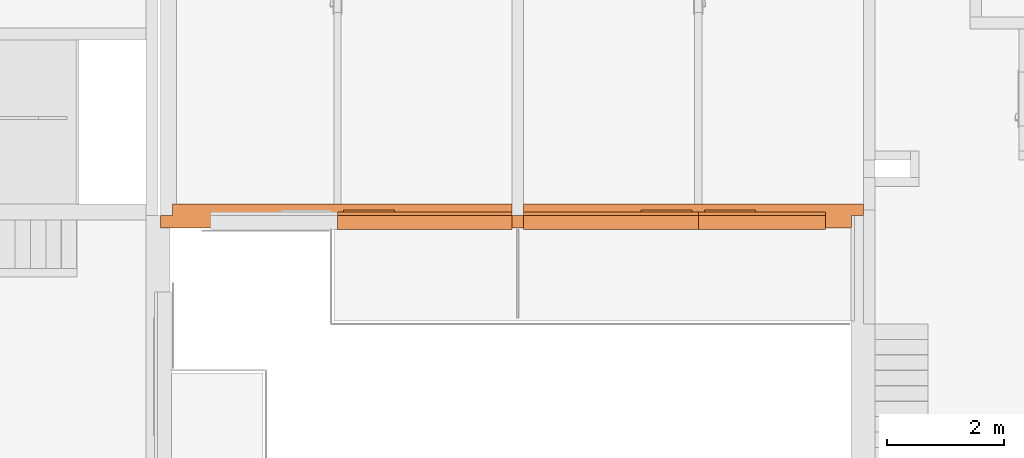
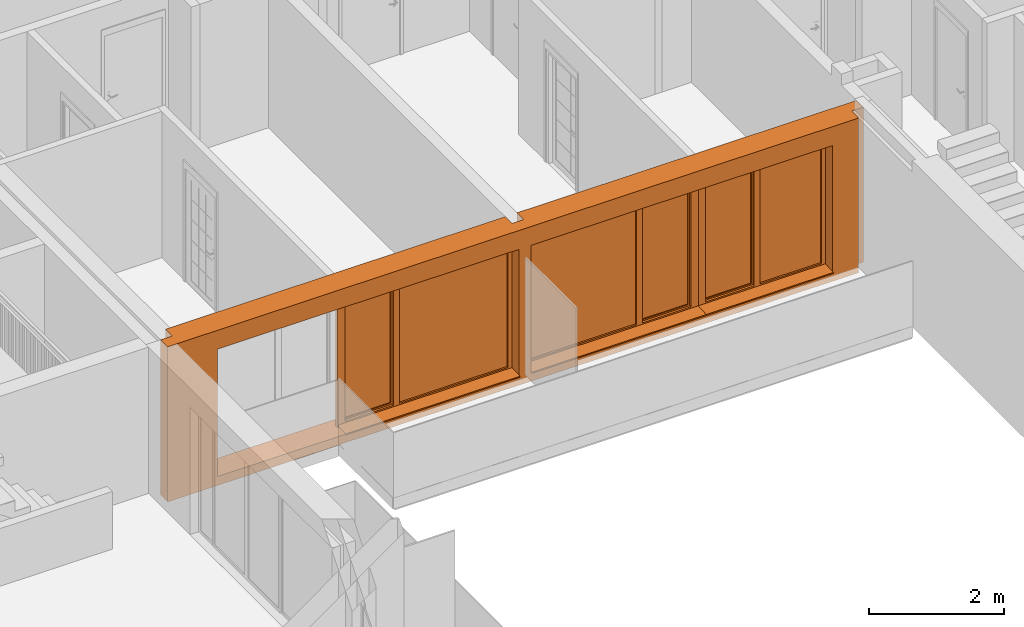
# One storey, part 41 of 61: 4 proxies, 4 openings.
"""IFC2X3 building model written with IfcOpenShell, lengths in millimetres."""

from ifc_helpers import new_model, entity, si_unit, converted_unit, derived_unit, money_unit, direction, frame, origin_with_axes, origin_2d_with_axis, place, context, subcontext, project, spatial, rectangle, extrude, open_shell, faceted_brep, surface_model, source, transform, mapped, material, material_list, type_object, element, fill, save


model = new_model("IFC2X3")

# Units and contexts
model_context = context("Model", 3, precision=0.01, world=origin_with_axes(), true_north=direction((0.34421633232, 0.938890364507)))
body_context = subcontext(model_context, "Body", "Model", "MODEL_VIEW")
ifc_project = project(units=[si_unit("LENGTHUNIT", "METRE", prefix="MILLI"), si_unit("AREAUNIT", "SQUARE_METRE"), si_unit("VOLUMEUNIT", "CUBIC_METRE"), converted_unit("PLANEANGLEUNIT", "DEGREE", entity("IfcPlaneAngleMeasure", 0.0174532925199), si_unit("PLANEANGLEUNIT", "RADIAN"), dimensions=[0, 0, 0, 0, 0, 0, 0]), si_unit("SOLIDANGLEUNIT", "STERADIAN"), money_unit("USD"), converted_unit("TIMEUNIT", "Year", entity("IfcTimeMeasure", 31556926.0), si_unit("TIMEUNIT", "SECOND"), dimensions=[0, 0, 1, 0, 0, 0, 0]), si_unit("MASSUNIT", "GRAM", prefix="KILO"), si_unit("THERMODYNAMICTEMPERATUREUNIT", "DEGREE_CELSIUS"), si_unit("LUMINOUSINTENSITYUNIT", "LUMEN"), si_unit("ENERGYUNIT", "JOULE", prefix="MEGA"), derived_unit("THERMALCONDUCTANCEUNIT", [(si_unit("POWERUNIT", "WATT"), 1), (si_unit("LENGTHUNIT", "METRE"), -1), (si_unit("THERMODYNAMICTEMPERATUREUNIT", "KELVIN"), -1)]), derived_unit("SPECIFICHEATCAPACITYUNIT", [(si_unit("ENERGYUNIT", "JOULE"), 1), (si_unit("MASSUNIT", "GRAM", prefix="KILO"), -1), (si_unit("THERMODYNAMICTEMPERATUREUNIT", "KELVIN"), -1)]), derived_unit("MASSDENSITYUNIT", [(si_unit("MASSUNIT", "GRAM", prefix="KILO"), 1), (si_unit("VOLUMEUNIT", "CUBIC_METRE"), -1)])], contexts=[model_context])

# Site, building, storey
site_placement = place(None, origin_with_axes())
site = spatial("IfcSite", under=ifc_project, at=site_placement, Name="USTRONIE MORSKIE", CompositionType="ELEMENT")
building_placement = place(site_placement, origin_with_axes())
building = spatial("IfcBuilding", under=site, at=building_placement, Name="Budynek", CompositionType="ELEMENT")
storey_placement = place(building_placement, frame((0.0, 0.0, 13000.0), z_axis=(0.0, 0.0, 1.0), x_axis=(1.0, 0.0, 0.0)))
storey = spatial("IfcBuildingStorey", under=building, at=storey_placement, Name="PIĘTRO 4", CompositionType="ELEMENT", Elevation=13000.0)

# Proxies, openings
ifc_material_1 = material(Name="Tynk zewnętrzny")
ifc_material_2 = material(Name="Wełna ELEW")
ifc_material_3 = material(Name="Beton konstrukcyjny B25")
ifc_material_list = material_list([ifc_material_1, ifc_material_2, ifc_material_3])
building_element_proxy_type_1 = type_object("IfcBuildingElementProxyType", Name="20+20 410", PredefinedType="NOTDEFINED")
proxy_1_placement = place(storey_placement, frame((379317.920919, 726901.199036, -160.0), z_axis=(0.0, 0.0, 1.0), x_axis=(-1.0, 0.0, 0.0)))
proxy_1 = element("IfcBuildingElementProxy", 1, at=proxy_1_placement, inside=storey, type_object=building_element_proxy_type_1, material=ifc_material_list, Name="SZ-01", context=body_context, shape_type="Brep", body=[
    faceted_brep([(12100.0, 300.0, 2800.00000171), (310.0, 300.0, 2800.00000171), (310.0, 300.0, 110.0), (9139.98064962, 300.0, 110.0), (9139.98064962, 300.0, 85.0), (9139.98064962, 300.0, 5.0), (9139.98064962, 300.0, 0.0), (12100.0, 300.0, 0.0), (310.0, 310.0, 2800.00000171), (12100.0, 310.0, 2800.00000171), (310.0, 310.0, 110.0), (9139.98064962, 310.0, 110.0), (9139.98064962, 310.0, 85.0), (9139.98064962, 310.0, 5.0), (9139.98064962, 310.0, 0.0), (12100.0, 310.0, 0.0)], [[[0, 1, 2, 3, 4, 5, 6, 7]], [[8, 1, 0, 9]], [[1, 8, 10, 2]], [[3, 2, 10, 11]], [[4, 3, 11, 12]], [[4, 12, 13, 5]], [[5, 13, 14, 6]], [[6, 14, 15, 7]], [[9, 0, 7, 15]], [[8, 9, 15, 14, 13, 12, 11, 10]]]),
    faceted_brep([(12100.0, 100.0, 2800.00000171), (300.0, 100.0, 2800.00000171), (300.0, 100.0, 0.0), (12100.0, 100.0, 0.0), (300.0, 300.0, 2800.00000171), (12100.0, 300.0, 2800.00000171), (300.0, 300.0, 0.0), (12100.0, 300.0, 0.0)], [[[0, 1, 2, 3]], [[4, 1, 0, 5]], [[1, 4, 6, 2]], [[3, 2, 6, 7]], [[5, 0, 3, 7]], [[4, 5, 7, 6]]]),
    faceted_brep([(11900.0, -100.0, 2800.0), (6100.0, -100.0, 2800.0), (6100.0, -100.0, 0.0), (11900.0, -100.0, 0.0), (6100.0, 100.0, 2800.0), (11900.0, 100.0, 2800.0), (6100.0, 100.0, 0.0), (11900.0, 100.0, 0.0)], [[[0, 1, 2, 3]], [[4, 1, 0, 5]], [[1, 4, 6, 2]], [[3, 2, 6, 7]], [[5, 0, 3, 7]], [[4, 5, 7, 6]]]),
    faceted_brep([(5900.0, -100.0, 2800.0), (100.0, -100.0, 2800.0), (100.0, -100.0, 0.0), (5900.0, -100.0, 0.0), (100.0, 0.0, 2800.0), (5900.0, 100.0, 2800.0), (100.0, 100.0, 2800.0), (100.0, 0.0, 0.0), (100.0, 100.0, 0.0), (5900.0, 100.0, 0.0)], [[[0, 1, 2, 3]], [[4, 1, 0, 5, 6]], [[1, 4, 7, 2]], [[2, 7, 8, 9, 3]], [[5, 0, 3, 9]], [[6, 5, 9, 8]], [[4, 6, 8, 7]]]),
])
opening_1_placement = place(proxy_1_placement, frame((4410.00967519, 0.0, 160.0), z_axis=(0.0, 0.0, 1.0), x_axis=(1.0, 0.0, 0.0)))
opening_1 = element("IfcOpeningElement", 2, at=opening_1_placement, cuts=proxy_1, Name="Wz.05", context=body_context, shape_type="SweptSolid", body=[
    extrude(rectangle(XDim=2979.98064962, YDim=2300.0, at=origin_2d_with_axis()), frame((0.0, 99.9999999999, 1150.0), z_axis=(0.0, -1.0, 0.0), x_axis=(-1.0, 0.0, 0.0)), (0.0, 0.0, -1.0), 620.0),
    extrude(rectangle(XDim=2979.98064962, YDim=2300.0, at=origin_2d_with_axis()), frame((0.0, 100.0, 1150.0), z_axis=(0.0, 1.0, 0.0), x_axis=(-1.0, 0.0, 0.0)), (0.0, 0.0, -1.0), 610.0),
])
opening_2_placement = place(proxy_1_placement, frame((1835.01935038, 0.0, 160.0), z_axis=(0.0, 0.0, 1.0), x_axis=(1.0, 0.0, 0.0)))
opening_2 = element("IfcOpeningElement", 3, at=opening_2_placement, cuts=proxy_1, Name="Wz.05", context=body_context, shape_type="SweptSolid", body=[
    extrude(rectangle(XDim=2170.0, YDim=2300.0, at=origin_2d_with_axis()), frame((0.0, 99.9999999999, 1150.0), z_axis=(0.0, 1.0, 0.0), x_axis=(1.0, 0.0, 0.0)), (0.0, 0.0, 1.0), 620.0),
    extrude(rectangle(XDim=2170.0, YDim=2300.0, at=origin_2d_with_axis()), frame((0.0, 100.0, 1150.0), z_axis=(0.0, -1.0, 0.0), x_axis=(1.0, 0.0, 0.0)), (0.0, 0.0, 1.0), 610.0),
])
opening_3_placement = place(proxy_1_placement, frame((7589.99032481, 0.0, 160.0), z_axis=(0.0, 0.0, 1.0), x_axis=(1.0, 0.0, 0.0)))
opening_3 = element("IfcOpeningElement", 4, at=opening_3_placement, cuts=proxy_1, Name="Wz.05", context=body_context, shape_type="SweptSolid", body=[
    extrude(rectangle(XDim=2979.98064962, YDim=2300.0, at=origin_2d_with_axis()), frame((0.0, 99.9999999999, 1150.0), z_axis=(0.0, 1.0, 0.0), x_axis=(1.0, 0.0, 0.0)), (0.0, 0.0, 1.0), 620.0),
    extrude(rectangle(XDim=2979.98064962, YDim=2300.0, at=origin_2d_with_axis()), frame((0.0, 100.0, 1150.0), z_axis=(0.0, -1.0, 0.0), x_axis=(1.0, 0.0, 0.0)), (0.0, 0.0, 1.0), 610.0),
])
opening_4_placement = place(proxy_1_placement, frame((10164.9806496, 0.0, 160.0), z_axis=(0.0, 0.0, 1.0), x_axis=(1.0, 0.0, 0.0)))
element("IfcOpeningElement", 5, at=opening_4_placement, cuts=proxy_1, Name="Wz.05", context=body_context, shape_type="SweptSolid", body=[
    extrude(rectangle(XDim=2170.0, YDim=2300.0, at=origin_2d_with_axis()), frame((0.0, 99.9999999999, 1150.0), z_axis=(0.0, -1.0, 0.0), x_axis=(-1.0, 0.0, 0.0)), (0.0, 0.0, -1.0), 620.0),
    extrude(rectangle(XDim=2170.0, YDim=2300.0, at=origin_2d_with_axis()), frame((0.0, 100.0, 1150.0), z_axis=(0.0, 1.0, 0.0), x_axis=(-1.0, 0.0, 0.0)), (0.0, 0.0, -1.0), 610.0),
])
building_element_proxy_type_2 = type_object("IfcBuildingElementProxyType", Name="Okno podwójne 23", PredefinedType="NOTDEFINED")
shared_shape_1 = source(origin_with_axes(), body_context, "Body", "SurfaceModel", [
    surface_model("IfcShellBasedSurfaceModel", [(1085.0, -61.0, 50.0), (-1085.0, -61.0, 50.0), (-1085.0, -61.0, 40.0), (1085.0, -61.0, 40.0), (-1085.0, -300.0, 28.5714285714), (1085.0, -300.0, 28.5714285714), (-1085.0, -300.0, 8.57142857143), (1085.0, -300.0, 8.57142857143), (-1085.0, -290.0, 18.5714285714), (1085.0, -290.0, 18.5714285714)], [open_shell([[[0, 1, 2, 3]], [[3, 2, 4, 5]], [[5, 4, 6, 7]], [[7, 6, 8, 9]]])]),
    faceted_brep([(-960.0, -20.0, 2235.0), (-980.0, -20.0, 2235.0), (-980.0, 0.0, 2235.0), (-1085.0, 0.0, 2235.0), (-1085.0, -60.0, 2235.0), (-960.0, -60.0, 2235.0), (-960.0, -20.0, 65.0), (-980.0, -20.0, 65.0), (-980.0, 0.0, 65.0), (-1085.0, 0.0, 65.0), (-1085.0, -60.0, 65.0), (-960.0, -60.0, 65.0)], [[[0, 1, 2, 3, 4, 5]], [[1, 0, 6, 7]], [[8, 2, 1, 7]], [[2, 8, 9, 3]], [[9, 10, 4, 3]], [[10, 11, 5, 4]], [[6, 0, 5, 11]], [[7, 6, 11, 10, 9, 8]]]),
    faceted_brep([(-110.0, 0.0, 2235.0), (-110.0, -20.0, 2235.0), (-130.0, -20.0, 2235.0), (-130.0, -60.0, 2235.0), (-30.0, -60.0, 2235.0), (-30.0, 0.0, 2235.0), (-110.0, 0.0, 65.0), (-110.0, -20.0, 65.0), (-130.0, -20.0, 65.0), (-130.0, -60.0, 65.0), (-30.0, -60.0, 65.0), (-30.0, 0.0, 65.0)], [[[0, 1, 2, 3, 4, 5]], [[1, 0, 6, 7]], [[8, 2, 1, 7]], [[2, 8, 9, 3]], [[9, 10, 4, 3]], [[5, 4, 10, 11]], [[6, 0, 5, 11]], [[7, 6, 11, 10, 9, 8]]]),
    faceted_brep([(-960.0, -20.0, 65.0), (-980.0, -20.0, 65.0), (-980.0, 0.0, 65.0), (-1085.0, 0.0, 65.0), (-1085.0, -60.0, 65.0), (-960.0, -60.0, 65.0), (-130.0, -20.0, 65.0), (-110.0, -20.0, 65.0), (-110.0, -20.0, 45.0), (-980.0, -20.0, 45.0), (-980.0, 0.0, 45.0), (-110.0, 0.0, 45.0), (-110.0, 0.0, 65.0), (-30.0, 0.0, 65.0), (1020.0, 0.0, 65.0), (1085.0, 0.0, 65.0), (1085.0, 0.0, 0.0), (-1085.0, 0.0, 0.0), (-1085.0, -60.0, 0.0), (1085.0, -60.0, 65.0), (1020.0, -60.0, 65.0), (-30.0, -60.0, 65.0), (-130.0, -60.0, 65.0), (1085.0, -60.0, 0.0)], [[[0, 1, 2, 3, 4, 5]], [[1, 0, 6, 7, 8, 9]], [[10, 2, 1, 9]], [[11, 12, 13, 14, 15, 16, 17, 3, 2, 10]], [[17, 18, 4, 3]], [[19, 20, 21, 22, 5, 4, 18, 23]], [[6, 0, 5, 22]], [[7, 6, 22, 21, 13, 12]], [[7, 12, 11, 8]], [[11, 10, 9, 8]], [[13, 21, 20, 14]], [[14, 20, 19, 15]], [[15, 19, 23, 16]], [[16, 23, 18, 17]]]),
    faceted_brep([(-110.0, 0.0, 2235.0), (-110.0, 0.0, 2255.0), (-980.0, 0.0, 2255.0), (-980.0, 0.0, 2235.0), (-1085.0, 0.0, 2235.0), (-1085.0, 0.0, 2300.0), (1085.0, 0.0, 2300.0), (1085.0, 0.0, 2235.0), (1020.0, 0.0, 2235.0), (-30.0, 0.0, 2235.0), (-110.0, -20.0, 2235.0), (-110.0, -20.0, 2255.0), (-980.0, -20.0, 2255.0), (-980.0, -20.0, 2235.0), (-960.0, -20.0, 2235.0), (-960.0, -60.0, 2235.0), (-1085.0, -60.0, 2235.0), (-1085.0, -60.0, 2300.0), (1085.0, -60.0, 2300.0), (1085.0, -60.0, 2235.0), (1020.0, -60.0, 2235.0), (-30.0, -60.0, 2235.0), (-130.0, -60.0, 2235.0), (-130.0, -20.0, 2235.0)], [[[0, 1, 2, 3, 4, 5, 6, 7, 8, 9]], [[1, 0, 10, 11]], [[2, 1, 11, 12]], [[3, 2, 12, 13]], [[13, 14, 15, 16, 4, 3]], [[4, 16, 17, 5]], [[5, 17, 18, 6]], [[6, 18, 19, 7]], [[7, 19, 20, 8]], [[8, 20, 21, 9]], [[10, 0, 9, 21, 22, 23]], [[14, 13, 12, 11, 10, 23]], [[14, 23, 22, 15]], [[22, 21, 20, 19, 18, 17, 16, 15]]]),
    faceted_brep([(1020.0, -60.0, 2235.0), (1085.0, -60.0, 2235.0), (1085.0, 0.0, 2235.0), (1020.0, 0.0, 2235.0), (1020.0, -60.0, 65.0), (1085.0, -60.0, 65.0), (1085.0, 0.0, 65.0), (1020.0, 0.0, 65.0)], [[[0, 1, 2, 3]], [[0, 4, 5, 1]], [[1, 5, 6, 2]], [[3, 2, 6, 7]], [[4, 0, 3, 7]], [[5, 4, 7, 6]]]),
    surface_model("IfcShellBasedSurfaceModel", [(1020.0, -30.0, 65.0), (1020.0, -30.0, 2235.0), (-30.0, -30.0, 2235.0), (-30.0, -30.0, 65.0)], [open_shell([[[0, 1, 2, 3]]])]),
    surface_model("IfcShellBasedSurfaceModel", [(1020.0, -10.0, 65.0), (-30.0, -10.0, 65.0), (-30.0, -10.0, 2235.0), (1020.0, -10.0, 2235.0)], [open_shell([[[0, 1, 2, 3]]])]),
    faceted_brep([(-155.0, -20.0, 2210.0), (-110.0, -20.0, 2210.0), (-110.0, 40.0, 2210.0), (-155.0, 40.0, 2210.0), (-155.0, -20.0, 90.0), (-110.0, -20.0, 90.0), (-110.0, 40.0, 90.0), (-155.0, 40.0, 90.0)], [[[0, 1, 2, 3]], [[0, 4, 5, 1]], [[1, 5, 6, 2]], [[3, 2, 6, 7]], [[4, 0, 3, 7]], [[5, 4, 7, 6]]]),
    faceted_brep([(-935.0, -20.0, 90.0), (-980.0, -20.0, 90.0), (-980.0, 40.0, 90.0), (-935.0, 40.0, 90.0), (-935.0, -20.0, 2210.0), (-980.0, -20.0, 2210.0), (-980.0, 40.0, 2210.0), (-935.0, 40.0, 2210.0)], [[[0, 1, 2, 3]], [[0, 4, 5, 1]], [[1, 5, 6, 2]], [[3, 2, 6, 7]], [[4, 0, 3, 7]], [[5, 4, 7, 6]]]),
    faceted_brep([(-980.0, -20.0, 45.0), (-980.0, -20.0, 90.0), (-980.0, 40.0, 90.0), (-980.0, 40.0, 45.0), (-110.0, -20.0, 45.0), (-110.0, -20.0, 90.0), (-155.0, -20.0, 90.0), (-935.0, -20.0, 90.0), (-935.0, 40.0, 90.0), (-155.0, 40.0, 90.0), (-110.0, 40.0, 90.0), (-110.0, 40.0, 45.0)], [[[0, 1, 2, 3]], [[0, 4, 5, 6, 7, 1]], [[1, 7, 8, 2]], [[3, 2, 8, 9, 10, 11]], [[4, 0, 3, 11]], [[5, 4, 11, 10]], [[6, 5, 10, 9]], [[7, 6, 9, 8]]]),
    faceted_brep([(-110.0, -20.0, 2255.0), (-110.0, -20.0, 2210.0), (-110.0, 40.0, 2210.0), (-110.0, 40.0, 2255.0), (-980.0, -20.0, 2255.0), (-980.0, -20.0, 2210.0), (-935.0, -20.0, 2210.0), (-155.0, -20.0, 2210.0), (-155.0, 40.0, 2210.0), (-935.0, 40.0, 2210.0), (-980.0, 40.0, 2210.0), (-980.0, 40.0, 2255.0)], [[[0, 1, 2, 3]], [[0, 4, 5, 6, 7, 1]], [[1, 7, 8, 2]], [[3, 2, 8, 9, 10, 11]], [[4, 0, 3, 11]], [[5, 4, 11, 10]], [[6, 5, 10, 9]], [[7, 6, 9, 8]]]),
    surface_model("IfcShellBasedSurfaceModel", [(-155.0, 0.0, 90.0), (-155.0, 0.0, 2210.0), (-935.0, 0.0, 2210.0), (-935.0, 0.0, 90.0)], [open_shell([[[0, 1, 2, 3]]])]),
    surface_model("IfcShellBasedSurfaceModel", [(-155.0, 20.0, 90.0), (-935.0, 20.0, 90.0), (-935.0, 20.0, 2210.0), (-155.0, 20.0, 2210.0)], [open_shell([[[0, 1, 2, 3]]])]),
])
proxy_2_placement = place(opening_2_placement, frame((1085.0, 0.0, 0.0), z_axis=(0.0, 0.0, 1.0), x_axis=(-1.0, 0.0, 0.0)))
proxy_2 = element("IfcBuildingElementProxy", 6, at=proxy_2_placement, inside=storey, type_object=building_element_proxy_type_2, Name="Wz.05", context=body_context, shape_type="MappedRepresentation", body=[
    mapped(shared_shape_1, transform((1085.0, -40.0, 0.0))),
])
fill(opening_2, proxy_2)
shared_shape_2 = source(origin_with_axes(), body_context, "Body", "SurfaceModel", [
    surface_model("IfcShellBasedSurfaceModel", [(1489.99032481, -61.0, 50.0), (-1489.99032481, -61.0, 50.0), (-1489.99032481, -61.0, 40.0), (1489.99032481, -61.0, 40.0), (-1489.99032481, -300.0, 28.5714285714), (1489.99032481, -300.0, 28.5714285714), (-1489.99032481, -300.0, 8.57142857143), (1489.99032481, -300.0, 8.57142857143), (-1489.99032481, -290.0, 18.5714285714), (1489.99032481, -290.0, 18.5714285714)], [open_shell([[[0, 1, 2, 3]], [[3, 2, 4, 5]], [[5, 4, 6, 7]], [[7, 6, 8, 9]]])]),
    faceted_brep([(-1364.99032481, -20.0, 2235.0), (-1384.99032481, -20.0, 2235.0), (-1384.99032481, 0.0, 2235.0), (-1489.99032481, 0.0, 2235.0), (-1489.99032481, -60.0, 2235.0), (-1364.99032481, -60.0, 2235.0), (-1364.99032481, -20.0, 65.0), (-1384.99032481, -20.0, 65.0), (-1384.99032481, 0.0, 65.0), (-1489.99032481, 0.0, 65.0), (-1489.99032481, -60.0, 65.0), (-1364.99032481, -60.0, 65.0)], [[[0, 1, 2, 3, 4, 5]], [[1, 0, 6, 7]], [[8, 2, 1, 7]], [[2, 8, 9, 3]], [[9, 10, 4, 3]], [[10, 11, 5, 4]], [[6, 0, 5, 11]], [[7, 6, 11, 10, 9, 8]]]),
    faceted_brep([(-514.990324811, 0.0, 2235.0), (-514.990324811, -20.0, 2235.0), (-534.990324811, -20.0, 2235.0), (-534.990324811, -60.0, 2235.0), (-434.990324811, -60.0, 2235.0), (-434.990324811, 0.0, 2235.0), (-514.990324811, 0.0, 65.0), (-514.990324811, -20.0, 65.0), (-534.990324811, -20.0, 65.0), (-534.990324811, -60.0, 65.0), (-434.990324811, -60.0, 65.0), (-434.990324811, 0.0, 65.0)], [[[0, 1, 2, 3, 4, 5]], [[1, 0, 6, 7]], [[8, 2, 1, 7]], [[2, 8, 9, 3]], [[9, 10, 4, 3]], [[5, 4, 10, 11]], [[6, 0, 5, 11]], [[7, 6, 11, 10, 9, 8]]]),
    faceted_brep([(-1364.99032481, -20.0, 65.0), (-1384.99032481, -20.0, 65.0), (-1384.99032481, 0.0, 65.0), (-1489.99032481, 0.0, 65.0), (-1489.99032481, -60.0, 65.0), (-1364.99032481, -60.0, 65.0), (-534.990324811, -20.0, 65.0), (-514.990324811, -20.0, 65.0), (-514.990324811, -20.0, 45.0), (-1384.99032481, -20.0, 45.0), (-1384.99032481, 0.0, 45.0), (-514.990324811, 0.0, 45.0), (-514.990324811, 0.0, 65.0), (-434.990324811, 0.0, 65.0), (1424.99032481, 0.0, 65.0), (1489.99032481, 0.0, 65.0), (1489.99032481, 0.0, 0.0), (-1489.99032481, 0.0, 0.0), (-1489.99032481, -60.0, 0.0), (1489.99032481, -60.0, 65.0), (1424.99032481, -60.0, 65.0), (-434.990324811, -60.0, 65.0), (-534.990324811, -60.0, 65.0), (1489.99032481, -60.0, 0.0)], [[[0, 1, 2, 3, 4, 5]], [[1, 0, 6, 7, 8, 9]], [[10, 2, 1, 9]], [[11, 12, 13, 14, 15, 16, 17, 3, 2, 10]], [[17, 18, 4, 3]], [[19, 20, 21, 22, 5, 4, 18, 23]], [[6, 0, 5, 22]], [[7, 6, 22, 21, 13, 12]], [[7, 12, 11, 8]], [[11, 10, 9, 8]], [[13, 21, 20, 14]], [[14, 20, 19, 15]], [[15, 19, 23, 16]], [[16, 23, 18, 17]]]),
    faceted_brep([(-514.990324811, 0.0, 2235.0), (-514.990324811, 0.0, 2255.0), (-1384.99032481, 0.0, 2255.0), (-1384.99032481, 0.0, 2235.0), (-1489.99032481, 0.0, 2235.0), (-1489.99032481, 0.0, 2300.0), (1489.99032481, 0.0, 2300.0), (1489.99032481, 0.0, 2235.0), (1424.99032481, 0.0, 2235.0), (-434.990324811, 0.0, 2235.0), (-514.990324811, -20.0, 2235.0), (-514.990324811, -20.0, 2255.0), (-1384.99032481, -20.0, 2255.0), (-1384.99032481, -20.0, 2235.0), (-1364.99032481, -20.0, 2235.0), (-1364.99032481, -60.0, 2235.0), (-1489.99032481, -60.0, 2235.0), (-1489.99032481, -60.0, 2300.0), (1489.99032481, -60.0, 2300.0), (1489.99032481, -60.0, 2235.0), (1424.99032481, -60.0, 2235.0), (-434.990324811, -60.0, 2235.0), (-534.990324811, -60.0, 2235.0), (-534.990324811, -20.0, 2235.0)], [[[0, 1, 2, 3, 4, 5, 6, 7, 8, 9]], [[1, 0, 10, 11]], [[2, 1, 11, 12]], [[3, 2, 12, 13]], [[13, 14, 15, 16, 4, 3]], [[4, 16, 17, 5]], [[5, 17, 18, 6]], [[6, 18, 19, 7]], [[7, 19, 20, 8]], [[8, 20, 21, 9]], [[10, 0, 9, 21, 22, 23]], [[14, 13, 12, 11, 10, 23]], [[14, 23, 22, 15]], [[22, 21, 20, 19, 18, 17, 16, 15]]]),
    faceted_brep([(1424.99032481, -60.0, 2235.0), (1489.99032481, -60.0, 2235.0), (1489.99032481, 0.0, 2235.0), (1424.99032481, 0.0, 2235.0), (1424.99032481, -60.0, 65.0), (1489.99032481, -60.0, 65.0), (1489.99032481, 0.0, 65.0), (1424.99032481, 0.0, 65.0)], [[[0, 1, 2, 3]], [[0, 4, 5, 1]], [[1, 5, 6, 2]], [[3, 2, 6, 7]], [[4, 0, 3, 7]], [[5, 4, 7, 6]]]),
    surface_model("IfcShellBasedSurfaceModel", [(1424.99032481, -30.0, 65.0), (1424.99032481, -30.0, 2235.0), (-434.990324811, -30.0, 2235.0), (-434.990324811, -30.0, 65.0)], [open_shell([[[0, 1, 2, 3]]])]),
    surface_model("IfcShellBasedSurfaceModel", [(1424.99032481, -10.0, 65.0), (-434.990324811, -10.0, 65.0), (-434.990324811, -10.0, 2235.0), (1424.99032481, -10.0, 2235.0)], [open_shell([[[0, 1, 2, 3]]])]),
    faceted_brep([(-559.990324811, -20.0, 2210.0), (-514.990324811, -20.0, 2210.0), (-514.990324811, 40.0, 2210.0), (-559.990324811, 40.0, 2210.0), (-559.990324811, -20.0, 90.0), (-514.990324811, -20.0, 90.0), (-514.990324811, 40.0, 90.0), (-559.990324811, 40.0, 90.0)], [[[0, 1, 2, 3]], [[0, 4, 5, 1]], [[1, 5, 6, 2]], [[3, 2, 6, 7]], [[4, 0, 3, 7]], [[5, 4, 7, 6]]]),
    faceted_brep([(-1339.99032481, -20.0, 90.0), (-1384.99032481, -20.0, 90.0), (-1384.99032481, 40.0, 90.0), (-1339.99032481, 40.0, 90.0), (-1339.99032481, -20.0, 2210.0), (-1384.99032481, -20.0, 2210.0), (-1384.99032481, 40.0, 2210.0), (-1339.99032481, 40.0, 2210.0)], [[[0, 1, 2, 3]], [[0, 4, 5, 1]], [[1, 5, 6, 2]], [[3, 2, 6, 7]], [[4, 0, 3, 7]], [[5, 4, 7, 6]]]),
    faceted_brep([(-1384.99032481, -20.0, 45.0), (-1384.99032481, -20.0, 90.0), (-1384.99032481, 40.0, 90.0), (-1384.99032481, 40.0, 45.0), (-514.990324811, -20.0, 45.0), (-514.990324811, -20.0, 90.0), (-559.990324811, -20.0, 90.0), (-1339.99032481, -20.0, 90.0), (-1339.99032481, 40.0, 90.0), (-559.990324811, 40.0, 90.0), (-514.990324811, 40.0, 90.0), (-514.990324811, 40.0, 45.0)], [[[0, 1, 2, 3]], [[0, 4, 5, 6, 7, 1]], [[1, 7, 8, 2]], [[3, 2, 8, 9, 10, 11]], [[4, 0, 3, 11]], [[5, 4, 11, 10]], [[6, 5, 10, 9]], [[7, 6, 9, 8]]]),
    faceted_brep([(-514.990324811, -20.0, 2255.0), (-514.990324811, -20.0, 2210.0), (-514.990324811, 40.0, 2210.0), (-514.990324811, 40.0, 2255.0), (-1384.99032481, -20.0, 2255.0), (-1384.99032481, -20.0, 2210.0), (-1339.99032481, -20.0, 2210.0), (-559.990324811, -20.0, 2210.0), (-559.990324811, 40.0, 2210.0), (-1339.99032481, 40.0, 2210.0), (-1384.99032481, 40.0, 2210.0), (-1384.99032481, 40.0, 2255.0)], [[[0, 1, 2, 3]], [[0, 4, 5, 6, 7, 1]], [[1, 7, 8, 2]], [[3, 2, 8, 9, 10, 11]], [[4, 0, 3, 11]], [[5, 4, 11, 10]], [[6, 5, 10, 9]], [[7, 6, 9, 8]]]),
    surface_model("IfcShellBasedSurfaceModel", [(-559.990324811, 0.0, 90.0), (-559.990324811, 0.0, 2210.0), (-1339.99032481, 0.0, 2210.0), (-1339.99032481, 0.0, 90.0)], [open_shell([[[0, 1, 2, 3]]])]),
    surface_model("IfcShellBasedSurfaceModel", [(-559.990324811, 20.0, 90.0), (-1339.99032481, 20.0, 90.0), (-1339.99032481, 20.0, 2210.0), (-559.990324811, 20.0, 2210.0)], [open_shell([[[0, 1, 2, 3]]])]),
])
proxy_3_placement = place(opening_3_placement, frame((1489.99032481, 0.0, 0.0), z_axis=(0.0, 0.0, 1.0), x_axis=(-1.0, 0.0, 0.0)))
proxy_3 = element("IfcBuildingElementProxy", 7, at=proxy_3_placement, inside=storey, type_object=building_element_proxy_type_2, Name="Wz.05", context=body_context, shape_type="MappedRepresentation", body=[
    mapped(shared_shape_2, transform((1489.99032481, -40.0, 0.0))),
])
fill(opening_3, proxy_3)
shared_shape_3 = source(origin_with_axes(), body_context, "Body", "SurfaceModel", [
    surface_model("IfcShellBasedSurfaceModel", [(-1489.99032481, -61.0, 50.0), (-1489.99032481, -61.0, 40.0), (1489.99032481, -61.0, 40.0), (1489.99032481, -61.0, 50.0), (-1489.99032481, -300.0, 28.5714285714), (1489.99032481, -300.0, 28.5714285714), (-1489.99032481, -300.0, 8.57142857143), (1489.99032481, -300.0, 8.57142857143), (-1489.99032481, -290.0, 18.5714285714), (1489.99032481, -290.0, 18.5714285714)], [open_shell([[[0, 1, 2, 3]], [[1, 4, 5, 2]], [[4, 6, 7, 5]], [[6, 8, 9, 7]]])]),
    faceted_brep([(1364.99032481, -20.0, 2235.0), (1364.99032481, -60.0, 2235.0), (1489.99032481, -60.0, 2235.0), (1489.99032481, 0.0, 2235.0), (1384.99032481, 0.0, 2235.0), (1384.99032481, -20.0, 2235.0), (1364.99032481, -20.0, 65.0), (1364.99032481, -60.0, 65.0), (1489.99032481, -60.0, 65.0), (1489.99032481, 0.0, 65.0), (1384.99032481, 0.0, 65.0), (1384.99032481, -20.0, 65.0)], [[[0, 1, 2, 3, 4, 5]], [[6, 7, 1, 0]], [[8, 2, 1, 7]], [[9, 3, 2, 8]], [[4, 3, 9, 10]], [[10, 11, 5, 4]], [[5, 11, 6, 0]], [[11, 10, 9, 8, 7, 6]]]),
    faceted_brep([(514.990324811, 0.0, 2235.0), (434.990324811, 0.0, 2235.0), (434.990324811, -60.0, 2235.0), (534.990324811, -60.0, 2235.0), (534.990324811, -20.0, 2235.0), (514.990324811, -20.0, 2235.0), (514.990324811, 0.0, 65.0), (434.990324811, 0.0, 65.0), (434.990324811, -60.0, 65.0), (534.990324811, -60.0, 65.0), (534.990324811, -20.0, 65.0), (514.990324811, -20.0, 65.0)], [[[0, 1, 2, 3, 4, 5]], [[6, 7, 1, 0]], [[1, 7, 8, 2]], [[9, 3, 2, 8]], [[4, 3, 9, 10]], [[10, 11, 5, 4]], [[5, 11, 6, 0]], [[11, 10, 9, 8, 7, 6]]]),
    faceted_brep([(1364.99032481, -20.0, 65.0), (1364.99032481, -60.0, 65.0), (1489.99032481, -60.0, 65.0), (1489.99032481, 0.0, 65.0), (1384.99032481, 0.0, 65.0), (1384.99032481, -20.0, 65.0), (534.990324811, -20.0, 65.0), (534.990324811, -60.0, 65.0), (-1489.99032481, -60.0, 65.0), (-1489.99032481, -60.0, 0.0), (1489.99032481, -60.0, 0.0), (434.990324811, -60.0, 65.0), (-1424.99032481, -60.0, 65.0), (1489.99032481, 0.0, 0.0), (514.990324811, 0.0, 45.0), (1384.99032481, 0.0, 45.0), (-1489.99032481, 0.0, 0.0), (-1489.99032481, 0.0, 65.0), (-1424.99032481, 0.0, 65.0), (434.990324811, 0.0, 65.0), (514.990324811, 0.0, 65.0), (1384.99032481, -20.0, 45.0), (514.990324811, -20.0, 45.0), (514.990324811, -20.0, 65.0)], [[[0, 1, 2, 3, 4, 5]], [[6, 7, 1, 0]], [[8, 9, 10, 2, 1, 7, 11, 12]], [[13, 3, 2, 10]], [[14, 15, 4, 3, 13, 16, 17, 18, 19, 20]], [[15, 21, 5, 4]], [[5, 21, 22, 23, 6, 0]], [[23, 20, 19, 11, 7, 6]], [[17, 16, 9, 8]], [[16, 13, 10, 9]], [[19, 18, 12, 11]], [[18, 17, 8, 12]], [[14, 22, 21, 15]], [[23, 22, 14, 20]]]),
    faceted_brep([(514.990324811, 0.0, 2235.0), (434.990324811, 0.0, 2235.0), (-1424.99032481, 0.0, 2235.0), (-1489.99032481, 0.0, 2235.0), (-1489.99032481, 0.0, 2300.0), (1489.99032481, 0.0, 2300.0), (1489.99032481, 0.0, 2235.0), (1384.99032481, 0.0, 2235.0), (1384.99032481, 0.0, 2255.0), (514.990324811, 0.0, 2255.0), (514.990324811, -20.0, 2235.0), (534.990324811, -20.0, 2235.0), (534.990324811, -60.0, 2235.0), (434.990324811, -60.0, 2235.0), (-1424.99032481, -60.0, 2235.0), (-1489.99032481, -60.0, 2235.0), (-1489.99032481, -60.0, 2300.0), (1489.99032481, -60.0, 2300.0), (1489.99032481, -60.0, 2235.0), (1384.99032481, -20.0, 2235.0), (1364.99032481, -60.0, 2235.0), (1364.99032481, -20.0, 2235.0), (1384.99032481, -20.0, 2255.0), (514.990324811, -20.0, 2255.0)], [[[0, 1, 2, 3, 4, 5, 6, 7, 8, 9]], [[10, 11, 12, 13, 1, 0]], [[2, 1, 13, 14]], [[3, 2, 14, 15]], [[4, 3, 15, 16]], [[5, 4, 16, 17]], [[6, 5, 17, 18]], [[19, 7, 6, 18, 20, 21]], [[7, 19, 22, 8]], [[8, 22, 23, 9]], [[9, 23, 10, 0]], [[21, 11, 10, 23, 22, 19]], [[21, 20, 12, 11]], [[12, 20, 18, 17, 16, 15, 14, 13]]]),
    faceted_brep([(-1424.99032481, -60.0, 2235.0), (-1424.99032481, 0.0, 2235.0), (-1489.99032481, 0.0, 2235.0), (-1489.99032481, -60.0, 2235.0), (-1424.99032481, -60.0, 65.0), (-1424.99032481, 0.0, 65.0), (-1489.99032481, 0.0, 65.0), (-1489.99032481, -60.0, 65.0)], [[[0, 1, 2, 3]], [[4, 5, 1, 0]], [[1, 5, 6, 2]], [[3, 2, 6, 7]], [[0, 3, 7, 4]], [[7, 6, 5, 4]]]),
    surface_model("IfcShellBasedSurfaceModel", [(-1424.99032481, -30.0, 65.0), (434.990324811, -30.0, 65.0), (434.990324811, -30.0, 2235.0), (-1424.99032481, -30.0, 2235.0)], [open_shell([[[0, 1, 2, 3]]])]),
    surface_model("IfcShellBasedSurfaceModel", [(-1424.99032481, -10.0, 65.0), (-1424.99032481, -10.0, 2235.0), (434.990324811, -10.0, 2235.0), (434.990324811, -10.0, 65.0)], [open_shell([[[0, 1, 2, 3]]])]),
    faceted_brep([(559.990324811, -20.0, 2210.0), (559.990324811, 40.0, 2210.0), (514.990324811, 40.0, 2210.0), (514.990324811, -20.0, 2210.0), (559.990324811, -20.0, 90.0), (559.990324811, 40.0, 90.0), (514.990324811, 40.0, 90.0), (514.990324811, -20.0, 90.0)], [[[0, 1, 2, 3]], [[4, 5, 1, 0]], [[1, 5, 6, 2]], [[3, 2, 6, 7]], [[0, 3, 7, 4]], [[7, 6, 5, 4]]]),
    faceted_brep([(1339.99032481, -20.0, 90.0), (1339.99032481, 40.0, 90.0), (1384.99032481, 40.0, 90.0), (1384.99032481, -20.0, 90.0), (1339.99032481, -20.0, 2210.0), (1339.99032481, 40.0, 2210.0), (1384.99032481, 40.0, 2210.0), (1384.99032481, -20.0, 2210.0)], [[[0, 1, 2, 3]], [[4, 5, 1, 0]], [[1, 5, 6, 2]], [[3, 2, 6, 7]], [[0, 3, 7, 4]], [[7, 6, 5, 4]]]),
    faceted_brep([(1384.99032481, -20.0, 45.0), (1384.99032481, 40.0, 45.0), (1384.99032481, 40.0, 90.0), (1384.99032481, -20.0, 90.0), (514.990324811, -20.0, 45.0), (514.990324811, 40.0, 45.0), (514.990324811, 40.0, 90.0), (559.990324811, 40.0, 90.0), (1339.99032481, 40.0, 90.0), (1339.99032481, -20.0, 90.0), (559.990324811, -20.0, 90.0), (514.990324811, -20.0, 90.0)], [[[0, 1, 2, 3]], [[4, 5, 1, 0]], [[1, 5, 6, 7, 8, 2]], [[3, 2, 8, 9]], [[0, 3, 9, 10, 11, 4]], [[11, 6, 5, 4]], [[10, 7, 6, 11]], [[9, 8, 7, 10]]]),
    faceted_brep([(514.990324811, -20.0, 2255.0), (514.990324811, 40.0, 2255.0), (514.990324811, 40.0, 2210.0), (514.990324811, -20.0, 2210.0), (1384.99032481, -20.0, 2255.0), (1384.99032481, 40.0, 2255.0), (1384.99032481, 40.0, 2210.0), (1339.99032481, 40.0, 2210.0), (559.990324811, 40.0, 2210.0), (559.990324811, -20.0, 2210.0), (1339.99032481, -20.0, 2210.0), (1384.99032481, -20.0, 2210.0)], [[[0, 1, 2, 3]], [[4, 5, 1, 0]], [[1, 5, 6, 7, 8, 2]], [[3, 2, 8, 9]], [[0, 3, 9, 10, 11, 4]], [[11, 6, 5, 4]], [[10, 7, 6, 11]], [[9, 8, 7, 10]]]),
    surface_model("IfcShellBasedSurfaceModel", [(559.990324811, 0.0, 90.0), (1339.99032481, 0.0, 90.0), (1339.99032481, 0.0, 2210.0), (559.990324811, 0.0, 2210.0)], [open_shell([[[0, 1, 2, 3]]])]),
    surface_model("IfcShellBasedSurfaceModel", [(559.990324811, 20.0, 90.0), (559.990324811, 20.0, 2210.0), (1339.99032481, 20.0, 2210.0), (1339.99032481, 20.0, 90.0)], [open_shell([[[0, 1, 2, 3]]])]),
])
proxy_4_placement = place(opening_1_placement, frame((1489.99032481, 0.0, 0.0), z_axis=(0.0, 0.0, 1.0), x_axis=(-1.0, 0.0, 0.0)))
proxy_4 = element("IfcBuildingElementProxy", 8, at=proxy_4_placement, inside=storey, type_object=building_element_proxy_type_2, Name="Wz.05", context=body_context, shape_type="MappedRepresentation", body=[
    mapped(shared_shape_3, transform((1489.99032481, -40.0, 0.0))),
])
fill(opening_1, proxy_4)

save(model, "model.ifc")
